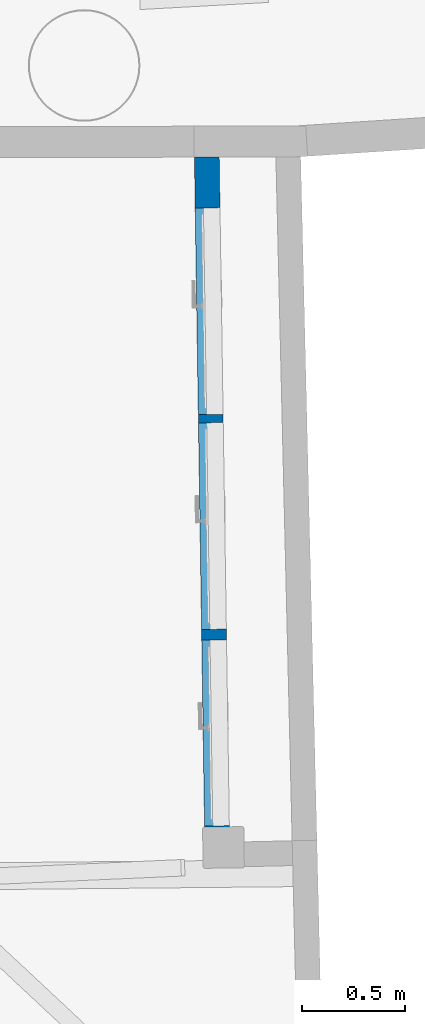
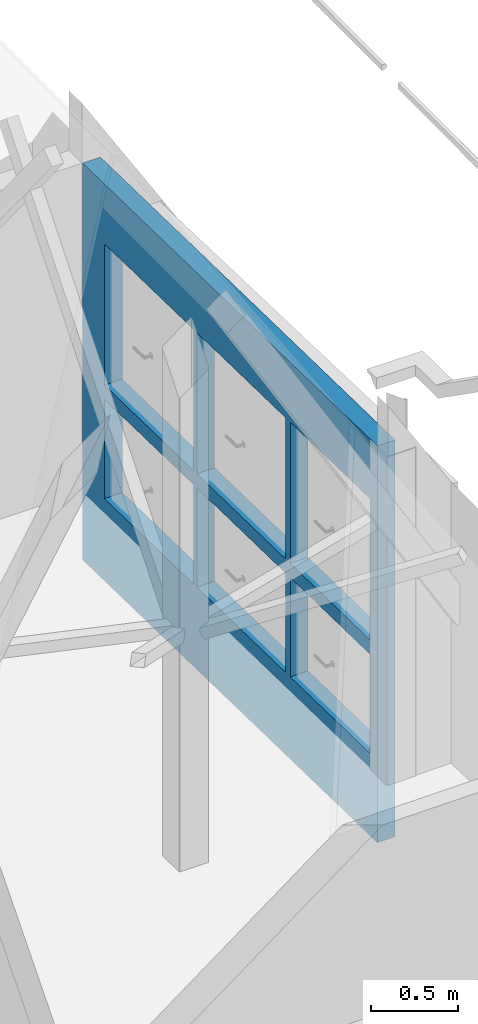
# One storey, part 10 of 39: 1 wall, 6 openings.
"""IFC2X3 building model written with IfcOpenShell, lengths in centimetres."""

import ifcopenshell
import ifcopenshell.guid

model = None  # the IFC model being written
_history = None  # IfcOwnerHistory: only IFC2X3 demands one
_inside = {}  # id of a spatial element -> (the spatial element, [elements in it])
_under = {}  # id of a project, library or spatial element -> (it, [spatial elements below it])
_declared = {}  # id of a project -> (the project, [libraries it declares])
_typed = {}  # id of a type object -> (the type object, [elements of that type])
_made_of = {}  # id of a material, layer set ... -> (it, [elements and type objects made of it])


def new_model(schema):
    """Start an empty IFC model of exactly this schema.

    Asked for "IFC4X3", IfcOpenShell would pick the latest addendum, in which some entities
    have other attributes; the version numbers below select the first issue.
    IFC2X3 requires an IfcOwnerHistory on every rooted entity: one is made here for all.
    """
    global model, _history
    if schema == "IFC4X3":
        model = ifcopenshell.file(schema_version=(4, 3, 0, 0))
    else:
        model = ifcopenshell.file(schema=schema)
    _inside.clear()
    _under.clear()
    _declared.clear()
    _typed.clear()
    _made_of.clear()
    _history = None
    if model.schema == "IFC2X3":
        org = make("IfcOrganization", Name="unknown")
        user = make(
            "IfcPersonAndOrganization",
            ThePerson=make("IfcPerson", FamilyName="unknown"),
            TheOrganization=org,
        )
        app = make(
            "IfcApplication",
            ApplicationDeveloper=org,
            Version="unknown",
            ApplicationFullName="unknown",
            ApplicationIdentifier="unknown",
        )
        _history = make(
            "IfcOwnerHistory",
            OwningUser=user,
            OwningApplication=app,
            ChangeAction="ADDED",
            CreationDate=0,
        )
    return model


def make(cls, **values):
    """One entity of the class cls with the attributes given. An attribute that is None is left unset."""
    return model.create_entity(
        cls, **{name: value for name, value in values.items() if value is not None}
    )


def entity(cls, *values):
    """Any entity or typed value of the class cls, its attributes in the order of the schema. None: left unset."""
    e = model.create_entity(cls)
    for i, value in enumerate(values):
        if value is not None:
            e[i] = value
    return e


def rooted(cls, **values):
    """An entity with a GlobalId (a new one), such as an element, a storey or a relation."""
    return make(cls, GlobalId=ifcopenshell.guid.new(), OwnerHistory=_history, **values)


def si_unit(unit_type, name, prefix=None):
    """IfcSIUnit, for example si_unit("LENGTHUNIT", "METRE", prefix="MILLI")."""
    return make("IfcSIUnit", UnitType=unit_type, Prefix=prefix, Name=name)


def converted_unit(unit_type, name, factor, base, dimensions=None, offset=None):
    """IfcConversionBasedUnit, such as the inch: factor (a typed value) times the base unit."""
    return make(
        "IfcConversionBasedUnit"
        if offset is None
        else "IfcConversionBasedUnitWithOffset",
        ConversionOffset=offset,
        Dimensions=None
        if dimensions is None
        else entity("IfcDimensionalExponents", *dimensions),
        UnitType=unit_type,
        Name=name,
        ConversionFactor=make(
            "IfcMeasureWithUnit", ValueComponent=factor, UnitComponent=base
        ),
    )


def assignment(units):
    """IfcUnitAssignment: the units of a project."""
    return None if units is None else make("IfcUnitAssignment", Units=units)


def point(xyz):
    """IfcCartesianPoint."""
    return None if xyz is None else make("IfcCartesianPoint", Coordinates=xyz)


def direction(xyz):
    """IfcDirection."""
    return None if xyz is None else make("IfcDirection", DirectionRatios=xyz)


def frame(location, z_axis=None, x_axis=None):
    """IfcAxis2Placement3D, a coordinate frame: its origin and axes. An axis left out is left unset."""
    return make(
        "IfcAxis2Placement3D",
        Location=point(location),
        Axis=direction(z_axis),
        RefDirection=direction(x_axis),
    )


def origin():
    """The frame at (0, 0, 0) with its axes left unset."""
    return frame((0.0, 0.0, 0.0))


def origin_with_axes():
    """The frame at (0, 0, 0) with the z axis (0, 0, 1) and the x axis (1, 0, 0) written out."""
    return frame((0.0, 0.0, 0.0), z_axis=(0.0, 0.0, 1.0), x_axis=(1.0, 0.0, 0.0))


def place(relative_to, where):
    """IfcLocalPlacement: puts the frame where relative to a parent placement (None: the world)."""
    return make(
        "IfcLocalPlacement", PlacementRelTo=relative_to, RelativePlacement=where
    )


def context(
    kind, dimensions, precision=None, world=None, true_north=None, identifier=None
):
    """IfcGeometricRepresentationContext, for example the 3D "Model" context."""
    return make(
        "IfcGeometricRepresentationContext",
        ContextIdentifier=identifier,
        ContextType=kind,
        CoordinateSpaceDimension=dimensions,
        Precision=precision,
        WorldCoordinateSystem=world,
        TrueNorth=true_north,
    )


def subcontext(parent, identifier, kind, view, scale=None):
    """IfcGeometricRepresentationSubContext, for example "Body" below "Model"."""
    return make(
        "IfcGeometricRepresentationSubContext",
        ContextIdentifier=identifier,
        ContextType=kind,
        ParentContext=parent,
        TargetScale=scale,
        TargetView=view,
    )


def project(units=None, contexts=None):
    """IfcProject with its units and contexts."""
    return rooted(
        "IfcProject",
        Name="project",
        RepresentationContexts=contexts,
        UnitsInContext=assignment(units),
    )


def spatial(cls, under=None, at=None, **own):
    """A site, building, storey or space (cls), placed at a placement, below another one or the project."""
    s = rooted(cls, ObjectPlacement=at, **own)
    if under is not None:
        _under.setdefault(under.id(), (under, []))[1].append(s)
    return s


def polyline(points):
    """IfcPolyline through the points."""
    return make("IfcPolyline", Points=[point(p) for p in points])


def outline(outer, holes=None, kind="AREA"):
    """IfcArbitraryClosedProfileDef: a profile drawn as a closed curve; with holes, ...WithVoids."""
    if holes is None:
        return make("IfcArbitraryClosedProfileDef", ProfileType=kind, OuterCurve=outer)
    return make(
        "IfcArbitraryProfileDefWithVoids",
        ProfileType=kind,
        OuterCurve=outer,
        InnerCurves=holes,
    )


def extrude(swept, where, along, depth):
    """IfcExtrudedAreaSolid: the profile swept, set in the frame where, extruded along a direction by depth."""
    return make(
        "IfcExtrudedAreaSolid",
        SweptArea=swept,
        Position=where,
        ExtrudedDirection=direction(along),
        Depth=depth,
    )


def shape(context_of_items, identifier, shape_type, items):
    """IfcShapeRepresentation: the items that make up one representation, for example the "Body"."""
    return make(
        "IfcShapeRepresentation",
        ContextOfItems=context_of_items,
        RepresentationIdentifier=identifier,
        RepresentationType=shape_type,
        Items=items,
    )


def material(Name=None, Category=None):
    """IfcMaterial."""
    return make("IfcMaterial", Name=Name, Category=Category)


def layer(
    of_material, thickness, ventilated=None, Name=None, Category=None, Priority=None
):
    """IfcMaterialLayer: one layer of a wall or slab, of a material (None: an air gap)."""
    return make(
        "IfcMaterialLayer",
        Material=of_material,
        LayerThickness=thickness,
        IsVentilated=ventilated,
        Name=Name,
        Category=Category,
        Priority=Priority,
    )


def layer_set(layers, Name=None):
    """IfcMaterialLayerSet."""
    return make("IfcMaterialLayerSet", MaterialLayers=layers, LayerSetName=Name)


def layer_usage(for_layer_set, set_direction, sense, offset, extent=None):
    """IfcMaterialLayerSetUsage: how a layer set lies in its element."""
    return make(
        "IfcMaterialLayerSetUsage",
        ForLayerSet=for_layer_set,
        LayerSetDirection=set_direction,
        DirectionSense=sense,
        OffsetFromReferenceLine=offset,
        ReferenceExtent=extent,
    )


def made_of(thing, what):
    """Note that an element or type object is made of a material, layer set ...; save() writes the relation."""
    if what is not None:
        _made_of.setdefault(what.id(), (what, []))[1].append(thing)
    return thing


def type_object(cls, material=None, **own):
    """A type object (cls), such as IfcWallType, which elements share."""
    return made_of(rooted(cls, **own), material)


def element(
    cls,
    number,
    at=None,
    inside=None,
    cuts=None,
    type_object=None,
    material=None,
    context=None,
    identifier="Body",
    shape_type=None,
    held_by="IfcProductDefinitionShape",
    body=None,
    shapes=None,
    **own,
):
    """One element of the class cls, such as IfcWall. Its Tag is "e" and its number.

    at: its placement. inside: the storey or other place that contains it. cuts: it is an
    opening in that element (IfcRelVoidsElement). A single representation is given by context,
    identifier, shape_type and body (its items); several are given by shapes. held_by: the class
    of the entity that holds the representations. save() writes the other relations.
    """
    e = rooted(cls, Tag="e%d" % number, ObjectPlacement=at, **own)
    if body is not None:
        shapes = [shape(context, identifier, shape_type, body)]
    if shapes is not None:
        e.Representation = make(held_by, Representations=shapes)
    if inside is not None:
        _inside.setdefault(inside.id(), (inside, []))[1].append(e)
    if cuts is not None:
        rooted(
            "IfcRelVoidsElement", RelatingBuildingElement=cuts, RelatedOpeningElement=e
        )
    if type_object is not None:
        _typed.setdefault(type_object.id(), (type_object, []))[1].append(e)
    return made_of(e, material)


def aggregate(whole, parts):
    """IfcRelAggregates: a whole, such as a stair, and the parts it consists of."""
    return rooted("IfcRelAggregates", RelatingObject=whole, RelatedObjects=parts)


def save(model, path):
    """Write the relations noted so far, then the file.

    IfcRelAggregates (storeys below a building ...), IfcRelContainedInSpatialStructure (elements
    in a storey), IfcRelDefinesByType, IfcRelAssociatesMaterial and IfcRelDeclares: one each for
    every whole, place, type object, material and project.
    """
    for whole, parts in _under.values():
        aggregate(whole, parts)
    for where, things in _inside.values():
        rooted(
            "IfcRelContainedInSpatialStructure",
            RelatedElements=things,
            RelatingStructure=where,
        )
    for kind, things in _typed.values():
        rooted("IfcRelDefinesByType", RelatedObjects=things, RelatingType=kind)
    for what, things in _made_of.values():
        rooted("IfcRelAssociatesMaterial", RelatedObjects=things, RelatingMaterial=what)
    for by, libraries in _declared.values():
        rooted("IfcRelDeclares", RelatingContext=by, RelatedDefinitions=libraries)
    model.write(path)


model = new_model("IFC2X3")

# Units and contexts
model_context = context("Model", 3, precision=0.0001, world=origin(), true_north=direction((0.225632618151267, 0.974212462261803, 0.0)))
body_context = subcontext(model_context, "Body", "Model", "MODEL_VIEW")
footprint_context = subcontext(model_context, "FootPrint", "Model", "MODEL_VIEW")
profile_context = subcontext(model_context, "Profile", "Model", "MODEL_VIEW")
ifc_project = project(units=[si_unit("LENGTHUNIT", "METRE", prefix="CENTI"), si_unit("AREAUNIT", "SQUARE_METRE", prefix="CENTI"), si_unit("VOLUMEUNIT", "CUBIC_METRE", prefix="CENTI"), converted_unit("PLANEANGLEUNIT", "DEGREE", entity("IfcRatioMeasure", 0.0174532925), si_unit("PLANEANGLEUNIT", "RADIAN"), dimensions=[0, 0, 0, 0, 0, 0, 0])], contexts=[model_context])

# Site, building, storey
site_placement = place(None, origin_with_axes())
site = spatial("IfcSite", under=ifc_project, at=site_placement, Name="Default Site", CompositionType="ELEMENT")
building_placement = place(site_placement, origin_with_axes())
building = spatial("IfcBuilding", under=site, at=building_placement, Name="Default Building", CompositionType="ELEMENT")
storey_placement = place(building_placement, frame((0.0, 0.0, 1088.91037418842), z_axis=(0.0, 0.0, 1.0), x_axis=(1.0, 0.0, 0.0)))
storey = spatial("IfcBuildingStorey", under=building, at=storey_placement, Name="Mezzanine", CompositionType="ELEMENT", Elevation=1088.91037418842)

# Wall, openings
ifc_material = material(Name="<aucun>")
ifc_layer = layer(ifc_material, 12.0)
ifc_layer_set = layer_set([ifc_layer], Name="default")
ifc_layer_usage = layer_usage(ifc_layer_set, "AXIS2", "POSITIVE", -6.0)
wall_type = type_object("IfcWallType", Name="default 120", PredefinedType="NOTDEFINED", material=ifc_layer_set)
wall_placement = place(storey_placement, frame((713.155929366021, -696.370067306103, 1.06581410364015e-12), z_axis=(0.0, 0.0, 1.0), x_axis=(-0.0151258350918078, 0.99988559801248, 0.0)))
wall = element("IfcWallStandardCase", 1, at=wall_placement, inside=storey, type_object=wall_type, material=ifc_layer_usage, Name="Enveloppe 195708", context=body_context, shape_type="SweptSolid", body=[
    extrude(outline(polyline([(343.90115868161, 5.99999999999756), (11.8963290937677, 5.99999999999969), (12.0004517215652, -6.00000000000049), (343.742327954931, -6.00000000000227), (343.90115868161, 5.99999999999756)])), frame((0.0, 0.0, -8.88178419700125e-13), z_axis=(0.0, 0.0, 1.0), x_axis=(1.0, 0.0, 0.0)), (0.0, 0.0, 1.0), 279.702416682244),
])
opening_1_placement = place(wall_placement, frame((20.0386384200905, -1.13686837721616e-13, 137.999999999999), z_axis=(0.0, 0.0, 1.0), x_axis=(1.0, -6.42715047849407e-15, 0.0)))
cartesian_point_1 = entity("IfcCartesianPoint", [0.0, -8.88178419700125e-14, 99.5058544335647])
cartesian_point_2 = entity("IfcCartesianPoint", [89.9999999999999, 5.99999999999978])
element("IfcOpeningElement", 2, at=opening_1_placement, cuts=wall, Name="4294966378_11", ObjectType="Opening", shapes=[
    shape(body_context, "Body", "SweptSolid", [extrude(outline(polyline([(0.0, 99.5058544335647), (0.0, 0.0), (89.9999999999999, 0.0), (89.9999999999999, 99.5058544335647), (0.0, 99.5058544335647)])), frame((0.0, 16.0000000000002, 0.0), z_axis=(0.0, -1.0, 0.0), x_axis=(1.0, 0.0, 0.0)), (0.0, 0.0, 1.0), 32.0000000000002)]),
    shape(profile_context, "Profile", "GeometricCurveSet", [entity("IfcGeometricCurveSet", [entity("IfcPolyline", [cartesian_point_1, entity("IfcCartesianPoint", [0.0, -8.88178419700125e-14, 0.0]), entity("IfcCartesianPoint", [89.9999999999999, 0.0, 0.0]), entity("IfcCartesianPoint", [89.9999999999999, 0.0, 99.5058544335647]), cartesian_point_1])])]),
    shape(footprint_context, "FootPrint", "GeometricCurveSet", [entity("IfcGeometricCurveSet", [entity("IfcPolyline", [cartesian_point_2, entity("IfcCartesianPoint", [1.77635683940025e-13, 5.99999999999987]), entity("IfcCartesianPoint", [1.77635683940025e-13, -6.00000000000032]), entity("IfcCartesianPoint", [90.0, -6.00000000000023]), cartesian_point_2])])]),
])
opening_2_placement = place(wall_placement, frame((115.212982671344, -6.82121026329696e-13, 57.9999999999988), z_axis=(0.0, 0.0, 1.0), x_axis=(1.0, -6.42715047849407e-15, 0.0)))
cartesian_point_3 = entity("IfcCartesianPoint", [0.0, -8.88178419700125e-14, 69.9999999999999])
cartesian_point_4 = entity("IfcCartesianPoint", [100.0, 5.99999999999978])
element("IfcOpeningElement", 3, at=opening_2_placement, cuts=wall, Name="4294966371_11", ObjectType="Opening", shapes=[
    shape(body_context, "Body", "SweptSolid", [extrude(outline(polyline([(-8.88178419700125e-14, 69.9999999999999), (-8.88178419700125e-14, 0.0), (100.0, 0.0), (100.0, 69.9999999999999), (-8.88178419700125e-14, 69.9999999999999)])), frame((0.0, 16.0000000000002, 0.0), z_axis=(0.0, -1.0, 0.0), x_axis=(1.0, 0.0, 0.0)), (0.0, 0.0, 1.0), 32.0000000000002)]),
    shape(profile_context, "Profile", "GeometricCurveSet", [entity("IfcGeometricCurveSet", [entity("IfcPolyline", [cartesian_point_3, entity("IfcCartesianPoint", [0.0, -8.88178419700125e-14, 0.0]), entity("IfcCartesianPoint", [99.9999999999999, -8.88178419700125e-14, 0.0]), entity("IfcCartesianPoint", [99.9999999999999, -8.88178419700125e-14, 69.9999999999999]), cartesian_point_3])])]),
    shape(footprint_context, "FootPrint", "GeometricCurveSet", [entity("IfcGeometricCurveSet", [entity("IfcPolyline", [cartesian_point_4, entity("IfcCartesianPoint", [8.88178419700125e-14, 5.99999999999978]), entity("IfcCartesianPoint", [2.66453525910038e-13, -6.00000000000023]), entity("IfcCartesianPoint", [100.0, -6.00000000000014]), cartesian_point_4])])]),
])
opening_3_placement = place(wall_placement, frame((20.0386384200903, -1.13686837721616e-13, 57.9999999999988), z_axis=(0.0, 0.0, 1.0), x_axis=(1.0, -6.42715047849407e-15, 0.0)))
cartesian_point_5 = entity("IfcCartesianPoint", [0.0, -8.88178419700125e-14, 69.9999999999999])
cartesian_point_6 = entity("IfcCartesianPoint", [89.9999999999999, 5.99999999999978])
element("IfcOpeningElement", 4, at=opening_3_placement, cuts=wall, Name="4294966370_11", ObjectType="Opening", shapes=[
    shape(body_context, "Body", "SweptSolid", [extrude(outline(polyline([(0.0, 69.9999999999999), (0.0, 0.0), (89.9999999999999, 0.0), (89.9999999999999, 69.9999999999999), (0.0, 69.9999999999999)])), frame((0.0, 16.0000000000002, 0.0), z_axis=(0.0, -1.0, 0.0), x_axis=(1.0, 0.0, 0.0)), (0.0, 0.0, 1.0), 32.0000000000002)]),
    shape(profile_context, "Profile", "GeometricCurveSet", [entity("IfcGeometricCurveSet", [entity("IfcPolyline", [cartesian_point_5, entity("IfcCartesianPoint", [0.0, -8.88178419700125e-14, 0.0]), entity("IfcCartesianPoint", [90.0, 0.0, 0.0]), entity("IfcCartesianPoint", [90.0, 0.0, 69.9999999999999]), cartesian_point_5])])]),
    shape(footprint_context, "FootPrint", "GeometricCurveSet", [entity("IfcGeometricCurveSet", [entity("IfcPolyline", [cartesian_point_6, entity("IfcCartesianPoint", [1.77635683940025e-13, 5.99999999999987]), entity("IfcCartesianPoint", [1.77635683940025e-13, -6.00000000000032]), entity("IfcCartesianPoint", [90.0000000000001, -6.00000000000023]), cartesian_point_6])])]),
])
opening_4_placement = place(wall_placement, frame((219.252027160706, -1.25055521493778e-12, 137.999999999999), z_axis=(0.0, 0.0, 1.0), x_axis=(1.0, -6.42715047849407e-15, 0.0)))
cartesian_point_7 = entity("IfcCartesianPoint", [0.0, -8.88178419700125e-14, 99.5058544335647])
cartesian_point_8 = entity("IfcCartesianPoint", [100.0, 5.99999999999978])
element("IfcOpeningElement", 5, at=opening_4_placement, cuts=wall, Name="4294966369_11", ObjectType="Opening", shapes=[
    shape(body_context, "Body", "SweptSolid", [extrude(outline(polyline([(0.0, 99.5058544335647), (0.0, 0.0), (100.0, 0.0), (100.0, 99.5058544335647), (0.0, 99.5058544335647)])), frame((0.0, 16.0000000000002, 0.0), z_axis=(0.0, -1.0, 0.0), x_axis=(1.0, 0.0, 0.0)), (0.0, 0.0, 1.0), 32.0000000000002)]),
    shape(profile_context, "Profile", "GeometricCurveSet", [entity("IfcGeometricCurveSet", [entity("IfcPolyline", [cartesian_point_7, entity("IfcCartesianPoint", [0.0, -8.88178419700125e-14, 0.0]), entity("IfcCartesianPoint", [100.0, -8.88178419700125e-14, 0.0]), entity("IfcCartesianPoint", [100.0, -8.88178419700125e-14, 99.5058544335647]), cartesian_point_7])])]),
    shape(footprint_context, "FootPrint", "GeometricCurveSet", [entity("IfcGeometricCurveSet", [entity("IfcPolyline", [cartesian_point_8, entity("IfcCartesianPoint", [0.0, 5.99999999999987]), entity("IfcCartesianPoint", [2.66453525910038e-13, -6.00000000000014]), entity("IfcCartesianPoint", [100.0, -6.00000000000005]), cartesian_point_8])])]),
])
opening_5_placement = place(wall_placement, frame((219.252037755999, -1.36424205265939e-12, 57.9999999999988), z_axis=(0.0, 0.0, 1.0), x_axis=(1.0, -6.42715047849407e-15, 0.0)))
cartesian_point_9 = entity("IfcCartesianPoint", [0.0, -8.88178419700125e-14, 69.9999999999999])
cartesian_point_10 = entity("IfcCartesianPoint", [100.0, 5.99999999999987])
element("IfcOpeningElement", 6, at=opening_5_placement, cuts=wall, Name="4294966368_11", ObjectType="Opening", shapes=[
    shape(body_context, "Body", "SweptSolid", [extrude(outline(polyline([(0.0, 69.9999999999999), (0.0, 0.0), (99.9999999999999, 0.0), (99.9999999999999, 69.9999999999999), (0.0, 69.9999999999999)])), frame((0.0, 16.0000000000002, 0.0), z_axis=(0.0, -1.0, 0.0), x_axis=(1.0, 0.0, 0.0)), (0.0, 0.0, 1.0), 32.0000000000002)]),
    shape(profile_context, "Profile", "GeometricCurveSet", [entity("IfcGeometricCurveSet", [entity("IfcPolyline", [cartesian_point_9, entity("IfcCartesianPoint", [0.0, -8.88178419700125e-14, 0.0]), entity("IfcCartesianPoint", [100.0, -8.88178419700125e-14, 0.0]), entity("IfcCartesianPoint", [100.0, -8.88178419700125e-14, 69.9999999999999]), cartesian_point_9])])]),
    shape(footprint_context, "FootPrint", "GeometricCurveSet", [entity("IfcGeometricCurveSet", [entity("IfcPolyline", [cartesian_point_10, entity("IfcCartesianPoint", [3.5527136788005e-13, 5.99999999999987]), entity("IfcCartesianPoint", [1.77635683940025e-13, -6.00000000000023]), entity("IfcCartesianPoint", [100.0, -6.00000000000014]), cartesian_point_10])])]),
])
opening_6_placement = place(wall_placement, frame((115.217961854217, -6.82121026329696e-13, 137.999999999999), z_axis=(0.0, 0.0, 1.0), x_axis=(1.0, -6.42715047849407e-15, 0.0)))
cartesian_point_11 = entity("IfcCartesianPoint", [0.0, -8.88178419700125e-14, 99.5058544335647])
cartesian_point_12 = entity("IfcCartesianPoint", [99.9999999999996, 5.99999999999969])
element("IfcOpeningElement", 7, at=opening_6_placement, cuts=wall, Name="4294966367_11", ObjectType="Opening", shapes=[
    shape(body_context, "Body", "SweptSolid", [extrude(outline(polyline([(-1.77635683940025e-13, 99.5058544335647), (-1.77635683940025e-13, 0.0), (99.9999999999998, 0.0), (99.9999999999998, 99.5058544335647), (-1.77635683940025e-13, 99.5058544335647)])), frame((0.0, 16.0000000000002, 0.0), z_axis=(0.0, -1.0, 0.0), x_axis=(1.0, 0.0, 0.0)), (0.0, 0.0, 1.0), 32.0000000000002)]),
    shape(profile_context, "Profile", "GeometricCurveSet", [entity("IfcGeometricCurveSet", [entity("IfcPolyline", [cartesian_point_11, entity("IfcCartesianPoint", [0.0, -8.88178419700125e-14, 0.0]), entity("IfcCartesianPoint", [99.9999999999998, 0.0, 0.0]), entity("IfcCartesianPoint", [99.9999999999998, 0.0, 99.5058544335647]), cartesian_point_11])])]),
    shape(footprint_context, "FootPrint", "GeometricCurveSet", [entity("IfcGeometricCurveSet", [entity("IfcPolyline", [cartesian_point_12, entity("IfcCartesianPoint", [8.88178419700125e-14, 5.99999999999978]), entity("IfcCartesianPoint", [1.77635683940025e-13, -6.00000000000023]), entity("IfcCartesianPoint", [100.0, -6.00000000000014]), cartesian_point_12])])]),
])

save(model, "model.ifc")
